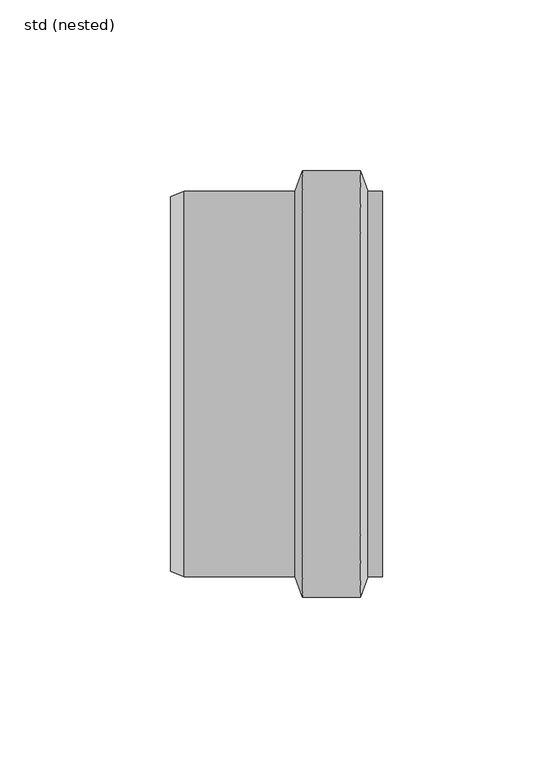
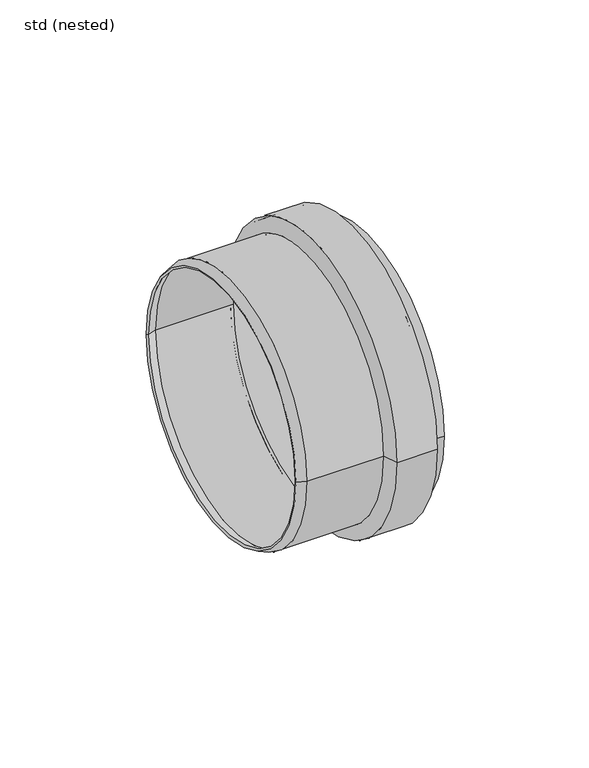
"""IFC4 building model written with IfcOpenShell, lengths in millimetres: pipe fitting geometry, ZZZ_do not use_PIF_ST_UN_ACO pipe socket_ACO : std (nested)."""

from ifc_helpers import new_model, si_unit, frame, origin, place, context, project, spatial, polyline, circle_curve, source, transform, mapped, element, save
from ifc_brep_helpers import plane_surface, cylinder_surface, revolved_surface, advanced_brep


def std_nested_ec74517b(model_context):
    return source(origin(), model_context, "Body", "AdvancedBrep", [
        advanced_brep(
        [(57.0, 55.5, 0.0), (52.0, 55.5, 0.0), (52.0, -55.5, 0.0), (57.0, -55.5, 0.0), (57.0, 56.5, 0.0), (57.0, -56.5, 0.0), (52.6984364, 56.5, 0.0), (52.6984364, -56.5, 0.0), (50.4984364, 62.5, 0.0), (50.4984364, -62.5, 0.0), (33.5015636, 62.5, 0.0), (33.5015636, -62.5, 0.0), (31.3015636, 56.5, 0.0), (31.3015636, -56.5, 0.0), (-1.1902264, 56.5, 0.0), (-1.1902264, -56.5, 0.0), (-5.1671665, 54.9301552, 0.0), (-5.1671665, -54.9301552, 0.0), (-4.8, 54.0, 0.0), (-4.8, -54.0, 0.0), (-1.0, 55.5, 0.0), (-1.0, -55.5, 0.0), (32.0, 55.5, 0.0), (32.0, -55.5, 0.0), (34.2, 61.5, 0.0), (34.2, -61.5, 0.0), (49.8, 61.5, 0.0), (49.8, -61.5, 0.0)],
        [
            (0, 1),
            (1, 2, circle_curve(frame((52.0, 0.0, 0.0), z_axis=(-1.0, 0.0, 0.0), x_axis=(0.0, -1.0, 0.0)), 55.5)),
            (2, 3),
            (3, 0, circle_curve(frame((57.0, 0.0, 0.0), z_axis=(1.0, 0.0, 0.0), x_axis=(0.0, -1.0, 0.0)), 55.5)),
            (2, 1, circle_curve(frame((52.0, 0.0, 0.0), z_axis=(-1.0, 0.0, 0.0), x_axis=(0.0, -1.0, 0.0)), 55.5)),
            (0, 3, circle_curve(frame((57.0, 0.0, 0.0), z_axis=(1.0, 0.0, 0.0), x_axis=(0.0, -1.0, 0.0)), 55.5)),
            (4, 0),
            (3, 5),
            (5, 4, circle_curve(frame((57.0, 0.0, 0.0), z_axis=(1.0, 0.0, 0.0), x_axis=(0.0, -1.0, 0.0)), 56.5)),
            (4, 5, circle_curve(frame((57.0, 0.0, 0.0), z_axis=(1.0, 0.0, 0.0), x_axis=(0.0, -1.0, 0.0)), 56.5)),
            (6, 4),
            (5, 7),
            (7, 6, circle_curve(frame((52.6984364, 0.0, 0.0), z_axis=(1.0, 0.0, 0.0), x_axis=(0.0, -1.0, 0.0)), 56.5)),
            (6, 7, circle_curve(frame((52.6984364, 0.0, 0.0), z_axis=(1.0, 0.0, 0.0), x_axis=(0.0, -1.0, 0.0)), 56.5)),
            (8, 6),
            (7, 9),
            (9, 8, circle_curve(frame((50.4984364, 0.0, 0.0), z_axis=(1.0, 0.0, 0.0), x_axis=(0.0, -1.0, 0.0)), 62.5)),
            (8, 9, circle_curve(frame((50.4984364, 0.0, 0.0), z_axis=(1.0, 0.0, 0.0), x_axis=(0.0, -1.0, 0.0)), 62.5)),
            (10, 8),
            (9, 11),
            (11, 10, circle_curve(frame((33.5015636, 0.0, 0.0), z_axis=(1.0, 0.0, 0.0), x_axis=(0.0, -1.0, 0.0)), 62.5)),
            (10, 11, circle_curve(frame((33.5015636, 0.0, 0.0), z_axis=(1.0, 0.0, 0.0), x_axis=(0.0, -1.0, 0.0)), 62.5)),
            (12, 10),
            (11, 13),
            (13, 12, circle_curve(frame((31.3015636, 0.0, 0.0), z_axis=(1.0, 0.0, 0.0), x_axis=(0.0, -1.0, 0.0)), 56.5)),
            (12, 13, circle_curve(frame((31.3015636, 0.0, 0.0), z_axis=(1.0, 0.0, 0.0), x_axis=(0.0, -1.0, 0.0)), 56.5)),
            (14, 12),
            (13, 15),
            (15, 14, circle_curve(frame((-1.1902264, 0.0, 0.0), z_axis=(1.0, 0.0, 0.0), x_axis=(0.0, -1.0, 0.0)), 56.5)),
            (14, 15, circle_curve(frame((-1.1902264, 0.0, 0.0), z_axis=(1.0, 0.0, 0.0), x_axis=(0.0, -1.0, 0.0)), 56.5)),
            (16, 14),
            (15, 17),
            (17, 16, circle_curve(frame((-5.1671665, 0.0, 0.0), z_axis=(1.0, 0.0, 0.0), x_axis=(0.0, -1.0, 0.0)), 54.9301552)),
            (16, 17, circle_curve(frame((-5.1671665, 0.0, 0.0), z_axis=(1.0, 0.0, 0.0), x_axis=(0.0, -1.0, 0.0)), 54.9301552)),
            (18, 16),
            (17, 19),
            (19, 18, circle_curve(frame((-4.8, 0.0, 0.0), z_axis=(1.0, 0.0, 0.0), x_axis=(0.0, -1.0, 0.0)), 54.0)),
            (18, 19, circle_curve(frame((-4.8, 0.0, 0.0), z_axis=(1.0, 0.0, 0.0), x_axis=(0.0, -1.0, 0.0)), 54.0)),
            (20, 18),
            (19, 21),
            (21, 20, circle_curve(frame((-1.0, 0.0, 0.0), z_axis=(1.0, 0.0, 0.0), x_axis=(0.0, -1.0, 0.0)), 55.5)),
            (20, 21, circle_curve(frame((-1.0, 0.0, 0.0), z_axis=(1.0, 0.0, 0.0), x_axis=(0.0, -1.0, 0.0)), 55.5)),
            (22, 20),
            (21, 23),
            (23, 22, circle_curve(frame((32.0, 0.0, 0.0), z_axis=(1.0, 0.0, 0.0), x_axis=(0.0, -1.0, 0.0)), 55.5)),
            (22, 23, circle_curve(frame((32.0, 0.0, 0.0), z_axis=(1.0, 0.0, 0.0), x_axis=(0.0, -1.0, 0.0)), 55.5)),
            (24, 22),
            (23, 25),
            (25, 24, circle_curve(frame((34.2, 0.0, 0.0), z_axis=(1.0, 0.0, 0.0), x_axis=(0.0, -1.0, 0.0)), 61.5)),
            (24, 25, circle_curve(frame((34.2, 0.0, 0.0), z_axis=(1.0, 0.0, 0.0), x_axis=(0.0, -1.0, 0.0)), 61.5)),
            (26, 24),
            (25, 27),
            (27, 26, circle_curve(frame((49.8, 0.0, 0.0), z_axis=(1.0, 0.0, 0.0), x_axis=(0.0, -1.0, 0.0)), 61.5)),
            (26, 27, circle_curve(frame((49.8, 0.0, 0.0), z_axis=(1.0, 0.0, 0.0), x_axis=(0.0, -1.0, 0.0)), 61.5)),
            (1, 26),
            (27, 2),
        ],
        [
            revolved_surface(polyline([(52.0, -55.5, 0.0), (57.0, -55.5, 0.0)]), (-17.268946, 0.0, 0.0), (-1.0, 0.0, 0.0)),
            plane_surface(frame((57.0, 0.0, 0.0), z_axis=(1.0, 0.0, 0.0), x_axis=(0.0, -1.0, 0.0))),
            cylinder_surface(frame((-17.268946, 0.0, 0.0), z_axis=(-1.0, 0.0, 0.0), x_axis=(0.0, -1.0, 0.0)), 56.5),
            revolved_surface(polyline([(52.6984364, -56.5, 0.0), (50.4984364, -62.5, 0.0)]), (-17.268946, 0.0, 0.0), (-1.0, 0.0, 0.0)),
            cylinder_surface(frame((-17.268946, 0.0, 0.0), z_axis=(-1.0, 0.0, 0.0), x_axis=(0.0, -1.0, 0.0)), 62.5),
            revolved_surface(polyline([(33.5015636, -62.5, 0.0), (31.3015636, -56.5, 0.0)]), (-17.268946, 0.0, 0.0), (-1.0, 0.0, 0.0)),
            revolved_surface(polyline([(-1.1902264, -56.5, 0.0), (-5.1671665, -54.9301552, 0.0)]), (-17.268946, 0.0, 0.0), (-1.0, 0.0, 0.0)),
            revolved_surface(polyline([(-5.1671665, -54.9301552, 0.0), (-4.8, -54.0, 0.0)]), (-17.268946, 0.0, 0.0), (-1.0, 0.0, 0.0)),
            revolved_surface(polyline([(-4.8, -54.0, 0.0), (-1.0, -55.5, 0.0)]), (-17.268946, 0.0, 0.0), (-1.0, 0.0, 0.0)),
            revolved_surface(polyline([(-1.0, -55.5, 0.0), (32.0, -55.5, 0.0)]), (-17.268946, 0.0, 0.0), (-1.0, 0.0, 0.0)),
            revolved_surface(polyline([(32.0, -55.5, 0.0), (34.2, -61.5, 0.0)]), (-17.268946, 0.0, 0.0), (-1.0, 0.0, 0.0)),
            revolved_surface(polyline([(34.2, -61.5, 0.0), (49.8, -61.5, 0.0)]), (-17.268946, 0.0, 0.0), (-1.0, 0.0, 0.0)),
            revolved_surface(polyline([(49.8, -61.5, 0.0), (52.0, -55.5, 0.0)]), (-17.268946, 0.0, 0.0), (-1.0, 0.0, 0.0)),
        ],
        [
            (0, [[1, 2, 3, 4]]),
            (0, [[-3, 5, -1, 6]]),
            (1, [[7, -4, 8, 9]]),
            (1, [[-8, -6, -7, 10]]),
            (2, [[11, -9, 12, 13]]),
            (2, [[-12, -10, -11, 14]]),
            (3, [[15, -13, 16, 17]]),
            (3, [[-16, -14, -15, 18]]),
            (4, [[19, -17, 20, 21]]),
            (4, [[-20, -18, -19, 22]]),
            (5, [[23, -21, 24, 25]]),
            (5, [[-24, -22, -23, 26]]),
            (2, [[27, -25, 28, 29]]),
            (2, [[-28, -26, -27, 30]]),
            (6, [[31, -29, 32, 33]]),
            (6, [[-32, -30, -31, 34]]),
            (7, [[35, -33, 36, 37]]),
            (7, [[-36, -34, -35, 38]]),
            (8, [[39, -37, 40, 41]]),
            (8, [[-40, -38, -39, 42]]),
            (9, [[43, -41, 44, 45]]),
            (9, [[-44, -42, -43, 46]]),
            (10, [[47, -45, 48, 49]]),
            (10, [[-48, -46, -47, 50]]),
            (11, [[51, -49, 52, 53]]),
            (11, [[-52, -50, -51, 54]]),
            (12, [[55, -53, 56, -2]]),
            (12, [[-56, -54, -55, -5]]),
        ],
    ),
    ])


if __name__ == "__main__":
    model = new_model("IFC4")
    model_context = context("Model", 3, world=origin())
    ifc_project = project(units=[si_unit("LENGTHUNIT", "METRE", prefix="MILLI")], contexts=[model_context])
    site = spatial("IfcSite", under=ifc_project)
    building = spatial("IfcBuilding", under=site)
    placement = place(None, origin())
    std_nested_shape = std_nested_ec74517b(model_context)
    element("IfcPipeFitting", 1, ObjectType="ZZZ_do not use_PIF_ST_UN_ACO pipe socket_ACO : std (nested)", at=placement, inside=building, context=model_context, shape_type="MappedRepresentation", body=[
        mapped(std_nested_shape, transform((0.0, 0.0, 0.0), x_axis=(1.0, 0.0, 0.0), y_axis=(0.0, 1.0, 0.0), z_axis=(0.0, 0.0, 1.0))),
    ])
    save(model, "model.ifc")
